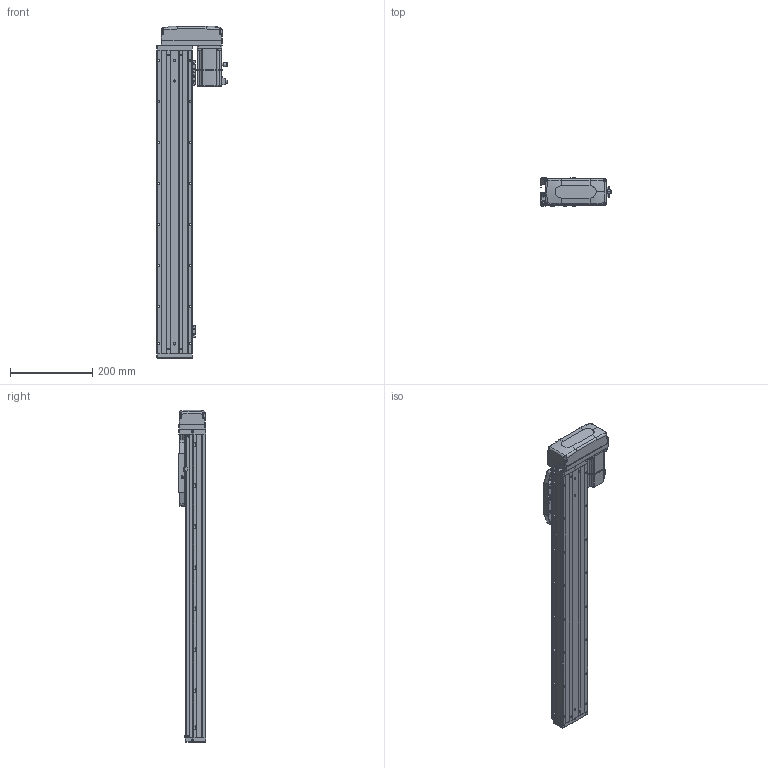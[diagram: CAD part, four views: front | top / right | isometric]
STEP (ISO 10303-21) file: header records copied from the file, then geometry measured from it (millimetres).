
FILE_DESCRIPTION (( 'STEP AP203' ), '1' );
FILE_NAME ('CTHA86-550-BL-M20-C4L.step', '2022-04-26T00:51:43', ( '微软用户' ), ( '微软中国' ), 'SwSTEP 2.0', 'SolidWorks 2020', '' );
FILE_SCHEMA (( 'CONFIG_CONTROL_DESIGN' ));
Length unit declared in the file: millimetre
Products named in the file (21): GBT70.1 M5℅16; CTHA86-030; GB¨uT 70.2-M3¡Á5_M3¡Á6; GBT 70.1-M3×16; GBT 70.3-M3℅6; EE_SX911P_R; GBT 70.1-M3℅6; CTHA86-015-1_CTHA86-015-2; CTHA60-017; CTHA60-016; CTHA86-033; CTHA60-021; _X2_4E0983F1_X0_200W_1; CTHA86-550-BL-M20-C4L; KTHA86-001_740; GBT77-2000 M3×3; CTHA86-002; KTHA86-004; GBT 70.1-M3×20; CTHA86-031; KTHA86-005
Assembly tree (66 placements, depth 2):
  CTHA86-550-BL-M20-C4L
    KTHA86-001_740
    KTHA86-004
    KTHA86-005
    GB¨uT 70.2-M3¡Á5_M3¡Á6  x10
    EE_SX911P_R  x3
    CTHA60-017  x3
    CTHA60-021  x2
    GBT77-2000 M3×3  x6
    GBT 70.1-M3×20
    GBT70.1 M5℅16  x14
    GBT 70.1-M3×16  x5
    GBT 70.1-M3℅6  x6
    CTHA60-016  x2
    _X2_4E0983F1_X0_200W_1
    CTHA86-002
    CTHA86-031
    CTHA86-030  x2
    GBT 70.3-M3℅6  x4
    CTHA86-015-1_CTHA86-015-2
    CTHA86-033
Bounding box: 172.7 x 68 x 809 mm (x, y, z)
Volume: 3274278.1 mm3; surface area: 569936 mm2
Topology: 68 solids, 68 shells, 2766 faces, 6596 edges, 4060 vertices
Faces by surface type: plane 1451, cylinder 717, cone 367, torus 132, bspline 75, sphere 24
Entity records: 48435 total; most frequent: CARTESIAN_POINT 9395, DIRECTION 7519, ORIENTED_EDGE 7292, EDGE_CURVE 3646, AXIS2_PLACEMENT_3D 2568, LINE 2383, VECTOR 2383, VERTEX_POINT 2292
